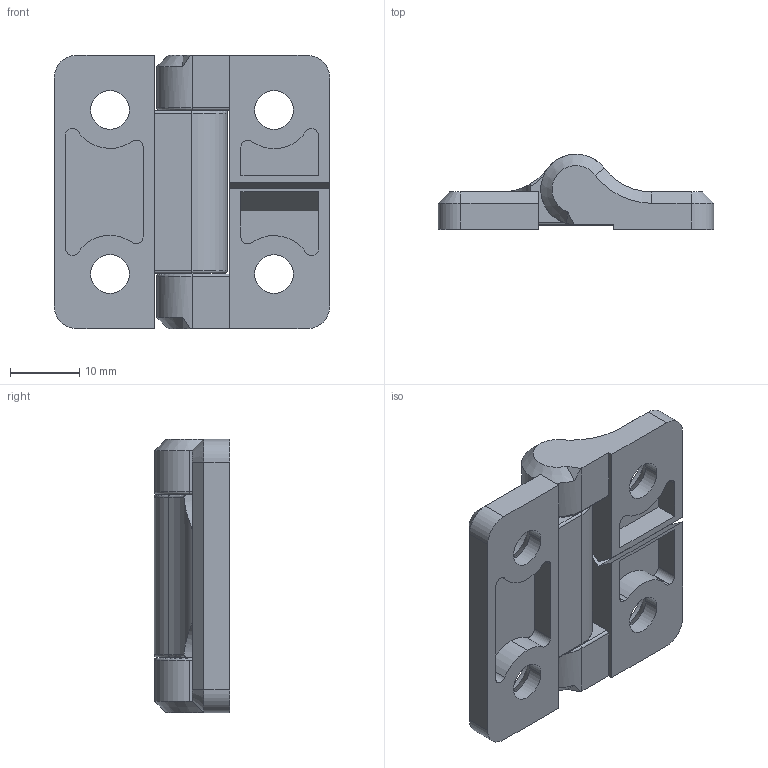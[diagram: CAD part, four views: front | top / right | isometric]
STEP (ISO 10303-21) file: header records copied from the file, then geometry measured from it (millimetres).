
FILE_DESCRIPTION (( 'STEP AP203' ), '1' );
FILE_NAME ('XG11-031-3.STEP', '2025-06-24T00:15:44', ( '微软用户' ), ( '微软中国' ), 'SwSTEP 2.0', 'SolidWorks 2024', '' );
FILE_SCHEMA (( 'CONFIG_CONTROL_DESIGN' ));
Length unit declared in the file: millimetre
Products named in the file (1): XG11-031-3
Bounding box: 39.93 x 10.88 x 39.62 mm (x, y, z)
Volume: 7637.3 mm3; surface area: 6045.8 mm2
Topology: 4 solids, 4 shells, 130 faces, 345 edges, 222 vertices
Faces by surface type: cylinder 55, plane 47, cone 16, torus 10, bspline 2
Entity records: 4421 total; most frequent: CARTESIAN_POINT 991, DIRECTION 743, ORIENTED_EDGE 690, EDGE_CURVE 345, AXIS2_PLACEMENT_3D 283, VERTEX_POINT 222, LINE 177, VECTOR 177
